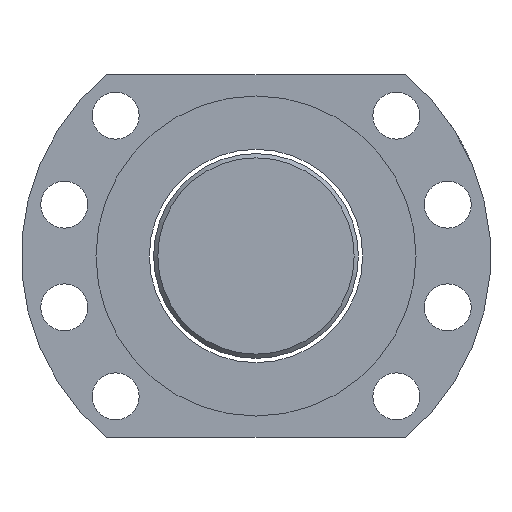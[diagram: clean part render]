
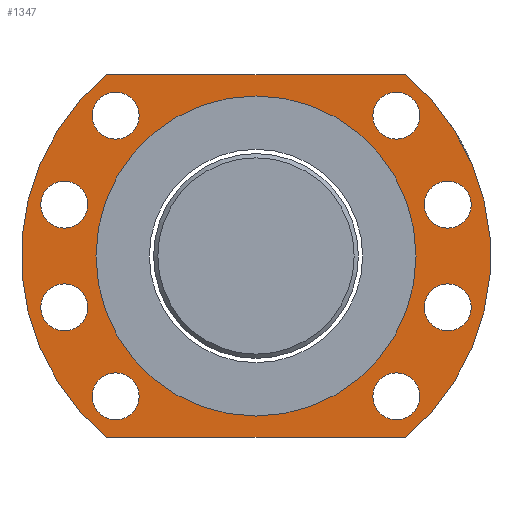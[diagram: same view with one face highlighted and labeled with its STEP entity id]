
A CAD part, left-side view. The second image highlights one B-rep face of the part: STEP entity #1347.
In plain terms, the highlighted planar face has unit normal (-1, 0, 0).
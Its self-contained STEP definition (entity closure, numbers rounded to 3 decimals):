
#128 = FACE_BOUND ( 'NONE', #579, .T. ) ;
#217 = CARTESIAN_POINT ( 'NONE',  ( -571.324, -100.184, -61.475 ) ) ;
#229 = VERTEX_POINT ( 'NONE', #383 ) ;
#234 = DIRECTION ( 'NONE',  ( 0., 0., 1. ) ) ;
#290 = CARTESIAN_POINT ( 'NONE',  ( -571.324, -55.269, -36.01 ) ) ;
#306 = AXIS2_PLACEMENT_3D ( 'NONE', #2342, #1414, #492 ) ;
#307 = FACE_BOUND ( 'NONE', #2175, .T. ) ;
#325 = VERTEX_POINT ( 'NONE', #1782 ) ;
#369 = ORIENTED_EDGE ( 'NONE', *, *, #726, .F. ) ;
#383 = CARTESIAN_POINT ( 'NONE',  ( -571.324, -133.065, -51.356 ) ) ;
#396 = AXIS2_PLACEMENT_3D ( 'NONE', #1968, #1040, #1595 ) ;
#409 = VERTEX_POINT ( 'NONE', #1840 ) ;
#421 = ORIENTED_EDGE ( 'NONE', *, *, #2336, .T. ) ;
#422 = AXIS2_PLACEMENT_3D ( 'NONE', #1089, #554, #994 ) ;
#424 = DIRECTION ( 'NONE',  ( 0., 0., 1. ) ) ;
#426 = DIRECTION ( 'NONE',  ( 0., 0., 1. ) ) ;
#433 = ORIENTED_EDGE ( 'NONE', *, *, #616, .F. ) ;
#437 = EDGE_CURVE ( 'NONE', #480, #480, #997, .T. ) ;
#473 = CIRCLE ( 'NONE', #1201, 37.5 ) ;
#474 = FACE_BOUND ( 'NONE', #838, .T. ) ;
#480 = VERTEX_POINT ( 'NONE', #1224 ) ;
#492 = DIRECTION ( 'NONE',  ( 0., 0., 1. ) ) ;
#496 = CIRCLE ( 'NONE', #840, 5.5 ) ;
#554 = DIRECTION ( 'NONE',  ( -1., 0., 0. ) ) ;
#579 = EDGE_LOOP ( 'NONE', ( #591 ) ) ;
#580 = CARTESIAN_POINT ( 'NONE',  ( -571.324, -65.273, -66.475 ) ) ;
#591 = ORIENTED_EDGE ( 'NONE', *, *, #2108, .F. ) ;
#592 = CARTESIAN_POINT ( 'NONE',  ( -571.324, -145.1, -6.44 ) ) ;
#616 = EDGE_CURVE ( 'NONE', #1813, #1813, #1504, .T. ) ;
#624 = DIRECTION ( 'NONE',  ( -1., 0., 0. ) ) ;
#628 = EDGE_CURVE ( 'NONE', #325, #1508, #1951, .T. ) ;
#636 = DIRECTION ( 'NONE',  ( -1., 0., 0. ) ) ;
#639 = EDGE_LOOP ( 'NONE', ( #369 ) ) ;
#658 = DIRECTION ( 'NONE',  ( 0., 0., 1. ) ) ;
#660 = DIRECTION ( 'NONE',  ( 0., -1., 0. ) ) ;
#663 = CARTESIAN_POINT ( 'NONE',  ( -571.324, -67.304, 14.405 ) ) ;
#699 = AXIS2_PLACEMENT_3D ( 'NONE', #1682, #1330, #426 ) ;
#708 = EDGE_LOOP ( 'NONE', ( #1198 ) ) ;
#726 = EDGE_CURVE ( 'NONE', #896, #896, #496, .T. ) ;
#727 = DIRECTION ( 'NONE',  ( 1., 0., 0. ) ) ;
#738 = AXIS2_PLACEMENT_3D ( 'NONE', #1882, #2081, #234 ) ;
#759 = CARTESIAN_POINT ( 'NONE',  ( -571.324, -55.269, -30.51 ) ) ;
#780 = AXIS2_PLACEMENT_3D ( 'NONE', #1742, #636, #658 ) ;
#784 = CARTESIAN_POINT ( 'NONE',  ( -571.324, -145.1, -11.94 ) ) ;
#813 = FACE_BOUND ( 'NONE', #1186, .T. ) ;
#838 = EDGE_LOOP ( 'NONE', ( #1978 ) ) ;
#840 = AXIS2_PLACEMENT_3D ( 'NONE', #1382, #2313, #2112 ) ;
#857 = FACE_OUTER_BOUND ( 'NONE', #895, .T. ) ;
#882 = ORIENTED_EDGE ( 'NONE', *, *, #1955, .T. ) ;
#895 = EDGE_LOOP ( 'NONE', ( #1412, #1790, #1940, #421 ) ) ;
#896 = VERTEX_POINT ( 'NONE', #663 ) ;
#927 = DIRECTION ( 'NONE',  ( 1., 0., 0. ) ) ;
#982 = VERTEX_POINT ( 'NONE', #2119 ) ;
#994 = DIRECTION ( 'NONE',  ( 0., 0., 1. ) ) ;
#997 = CIRCLE ( 'NONE', #306, 5.5 ) ;
#1007 = EDGE_LOOP ( 'NONE', ( #2030 ) ) ;
#1019 = CARTESIAN_POINT ( 'NONE',  ( -571.324, -135.095, 18.525 ) ) ;
#1024 = PLANE ( 'NONE',  #780 ) ;
#1040 = DIRECTION ( 'NONE',  ( -1., 0., 0. ) ) ;
#1070 = DIRECTION ( 'NONE',  ( 0., 0., 1. ) ) ;
#1084 = CIRCLE ( 'NONE', #1561, 5.5 ) ;
#1089 = CARTESIAN_POINT ( 'NONE',  ( -571.324, -67.304, -56.856 ) ) ;
#1186 = EDGE_LOOP ( 'NONE', ( #882 ) ) ;
#1197 = VECTOR ( 'NONE', #2294, 1000. ) ;
#1198 = ORIENTED_EDGE ( 'NONE', *, *, #437, .F. ) ;
#1201 = AXIS2_PLACEMENT_3D ( 'NONE', #1910, #624, #1962 ) ;
#1224 = CARTESIAN_POINT ( 'NONE',  ( -571.324, -55.269, -6.44 ) ) ;
#1240 = EDGE_CURVE ( 'NONE', #2042, #2042, #473, .T. ) ;
#1284 = EDGE_LOOP ( 'NONE', ( #2087 ) ) ;
#1330 = DIRECTION ( 'NONE',  ( 1., 0., 0. ) ) ;
#1347 = ADVANCED_FACE ( 'NONE', ( #2290, #307, #1776, #2122, #128, #857, #1358, #813, #1949, #474 ), #1024, .T. ) ;
#1358 = FACE_BOUND ( 'NONE', #1007, .T. ) ;
#1363 = DIRECTION ( 'NONE',  ( -1., 0., 0. ) ) ;
#1382 = CARTESIAN_POINT ( 'NONE',  ( -571.324, -67.304, 8.905 ) ) ;
#1412 = ORIENTED_EDGE ( 'NONE', *, *, #2236, .T. ) ;
#1414 = DIRECTION ( 'NONE',  ( -1., 0., 0. ) ) ;
#1452 = CARTESIAN_POINT ( 'NONE',  ( -571.324, -133.065, -56.856 ) ) ;
#1495 = EDGE_CURVE ( 'NONE', #229, #229, #1084, .T. ) ;
#1504 = CIRCLE ( 'NONE', #422, 5.5 ) ;
#1508 = VERTEX_POINT ( 'NONE', #2169 ) ;
#1548 = LINE ( 'NONE', #1019, #1197 ) ;
#1554 = CIRCLE ( 'NONE', #1935, 5.5 ) ;
#1561 = AXIS2_PLACEMENT_3D ( 'NONE', #1452, #727, #1070 ) ;
#1581 = VERTEX_POINT ( 'NONE', #2370 ) ;
#1595 = DIRECTION ( 'NONE',  ( 0., 0., -1. ) ) ;
#1628 = CIRCLE ( 'NONE', #738, 5.5 ) ;
#1639 = CARTESIAN_POINT ( 'NONE',  ( -571.324, -67.304, -51.356 ) ) ;
#1664 = VERTEX_POINT ( 'NONE', #759 ) ;
#1669 = DIRECTION ( 'NONE',  ( 0., 0., 1. ) ) ;
#1682 = CARTESIAN_POINT ( 'NONE',  ( -571.324, -133.065, 8.905 ) ) ;
#1737 = CIRCLE ( 'NONE', #699, 5.5 ) ;
#1742 = CARTESIAN_POINT ( 'NONE',  ( -571.324, -100.184, -23.975 ) ) ;
#1746 = EDGE_CURVE ( 'NONE', #409, #409, #1737, .T. ) ;
#1771 = EDGE_CURVE ( 'NONE', #1878, #1878, #2318, .T. ) ;
#1776 = FACE_BOUND ( 'NONE', #2364, .T. ) ;
#1782 = CARTESIAN_POINT ( 'NONE',  ( -571.324, -65.273, -66.475 ) ) ;
#1790 = ORIENTED_EDGE ( 'NONE', *, *, #628, .T. ) ;
#1813 = VERTEX_POINT ( 'NONE', #1639 ) ;
#1840 = CARTESIAN_POINT ( 'NONE',  ( -571.324, -133.065, 14.405 ) ) ;
#1865 = VERTEX_POINT ( 'NONE', #2376 ) ;
#1878 = VERTEX_POINT ( 'NONE', #592 ) ;
#1882 = CARTESIAN_POINT ( 'NONE',  ( -571.324, -145.1, -36.01 ) ) ;
#1892 = CIRCLE ( 'NONE', #2248, 55. ) ;
#1902 = DIRECTION ( 'NONE',  ( 0., 0., -1. ) ) ;
#1910 = CARTESIAN_POINT ( 'NONE',  ( -571.324, -100.184, -23.975 ) ) ;
#1929 = CARTESIAN_POINT ( 'NONE',  ( -571.324, -100.184, -23.975 ) ) ;
#1935 = AXIS2_PLACEMENT_3D ( 'NONE', #290, #1363, #424 ) ;
#1940 = ORIENTED_EDGE ( 'NONE', *, *, #2380, .T. ) ;
#1949 = FACE_BOUND ( 'NONE', #639, .T. ) ;
#1951 = LINE ( 'NONE', #580, #2310 ) ;
#1955 = EDGE_CURVE ( 'NONE', #1865, #1865, #1628, .T. ) ;
#1962 = DIRECTION ( 'NONE',  ( 0., 0., -1. ) ) ;
#1968 = CARTESIAN_POINT ( 'NONE',  ( -571.324, -100.184, -23.975 ) ) ;
#1978 = ORIENTED_EDGE ( 'NONE', *, *, #1746, .T. ) ;
#2030 = ORIENTED_EDGE ( 'NONE', *, *, #1240, .F. ) ;
#2042 = VERTEX_POINT ( 'NONE', #217 ) ;
#2052 = ORIENTED_EDGE ( 'NONE', *, *, #1495, .T. ) ;
#2081 = DIRECTION ( 'NONE',  ( 1., 0., 0. ) ) ;
#2087 = ORIENTED_EDGE ( 'NONE', *, *, #1771, .T. ) ;
#2103 = DIRECTION ( 'NONE',  ( -1., 0., 0. ) ) ;
#2108 = EDGE_CURVE ( 'NONE', #1664, #1664, #1554, .T. ) ;
#2112 = DIRECTION ( 'NONE',  ( 0., 0., 1. ) ) ;
#2119 = CARTESIAN_POINT ( 'NONE',  ( -571.324, -135.095, 18.525 ) ) ;
#2122 = FACE_BOUND ( 'NONE', #708, .T. ) ;
#2169 = CARTESIAN_POINT ( 'NONE',  ( -571.324, -135.095, -66.475 ) ) ;
#2172 = CIRCLE ( 'NONE', #396, 55. ) ;
#2175 = EDGE_LOOP ( 'NONE', ( #2052 ) ) ;
#2206 = AXIS2_PLACEMENT_3D ( 'NONE', #784, #927, #1669 ) ;
#2236 = EDGE_CURVE ( 'NONE', #1581, #325, #1892, .T. ) ;
#2248 = AXIS2_PLACEMENT_3D ( 'NONE', #1929, #2103, #1902 ) ;
#2290 = FACE_BOUND ( 'NONE', #1284, .T. ) ;
#2294 = DIRECTION ( 'NONE',  ( 0., 1., 0. ) ) ;
#2310 = VECTOR ( 'NONE', #660, 1000. ) ;
#2313 = DIRECTION ( 'NONE',  ( -1., 0., 0. ) ) ;
#2318 = CIRCLE ( 'NONE', #2206, 5.5 ) ;
#2336 = EDGE_CURVE ( 'NONE', #982, #1581, #1548, .T. ) ;
#2342 = CARTESIAN_POINT ( 'NONE',  ( -571.324, -55.269, -11.94 ) ) ;
#2364 = EDGE_LOOP ( 'NONE', ( #433 ) ) ;
#2370 = CARTESIAN_POINT ( 'NONE',  ( -571.324, -65.273, 18.525 ) ) ;
#2376 = CARTESIAN_POINT ( 'NONE',  ( -571.324, -145.1, -30.51 ) ) ;
#2380 = EDGE_CURVE ( 'NONE', #1508, #982, #2172, .T. ) ;
